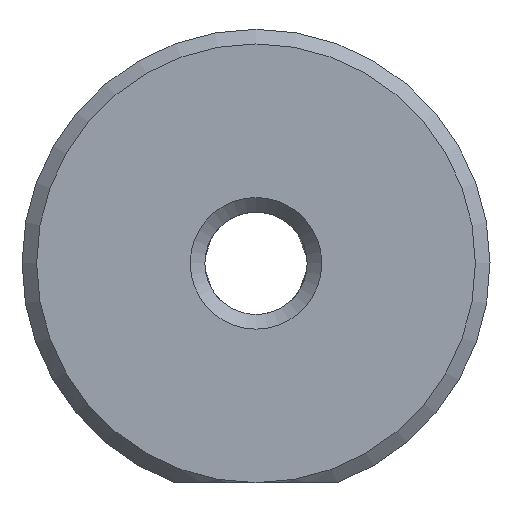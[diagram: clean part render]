
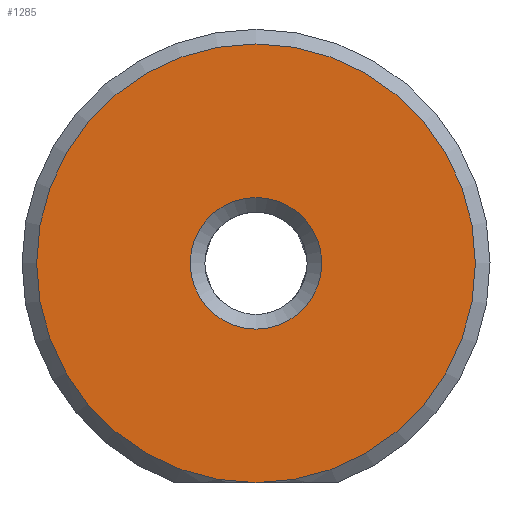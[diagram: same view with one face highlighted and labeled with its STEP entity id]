
A CAD part, left-side view. The second image highlights one B-rep face of the part: STEP entity #1285.
In plain terms, the highlighted planar face has unit normal (-1, 0, 0).
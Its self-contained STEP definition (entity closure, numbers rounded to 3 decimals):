
#1213=CARTESIAN_POINT('',(-12.,0.,4.5));
#1214=VERTEX_POINT('',#1213);
#1215=CARTESIAN_POINT('',(-12.,0.0,0.0));
#1216=DIRECTION('',(-1.0,0.0,0.0));
#1217=DIRECTION('',(0.0,0.0,-1.0));
#1218=AXIS2_PLACEMENT_3D('',#1215,#1216,#1217);
#1219=CIRCLE('',#1218,4.5);
#1220=EDGE_CURVE('',#1214,#1214,#1219,.T.);
#1266=CARTESIAN_POINT('',(-12.,0.0,0.0));
#1267=DIRECTION('',(-1.0,0.0,0.0));
#1268=DIRECTION('',(0.0,0.0,1.0));
#1269=AXIS2_PLACEMENT_3D('',#1266,#1267,#1268);
#1270=PLANE('',#1269);
#1271=CARTESIAN_POINT('',(-12.,0.0,-15.0));
#1272=VERTEX_POINT('',#1271);
#1273=CARTESIAN_POINT('',(-12.,0.0,0.0));
#1274=DIRECTION('',(1.0,0.0,0.0));
#1275=DIRECTION('',(0.0,-1.0,0.0));
#1276=AXIS2_PLACEMENT_3D('',#1273,#1274,#1275);
#1277=CIRCLE('',#1276,15.0);
#1278=EDGE_CURVE('',#1272,#1272,#1277,.T.);
#1279=ORIENTED_EDGE('',*,*,#1278,.F.);
#1280=EDGE_LOOP('',(#1279));
#1281=FACE_OUTER_BOUND('',#1280,.T.);
#1282=ORIENTED_EDGE('',*,*,#1220,.F.);
#1283=EDGE_LOOP('',(#1282));
#1284=FACE_BOUND('',#1283,.T.);
#1285=ADVANCED_FACE('',(#1281,#1284),#1270,.T.);
